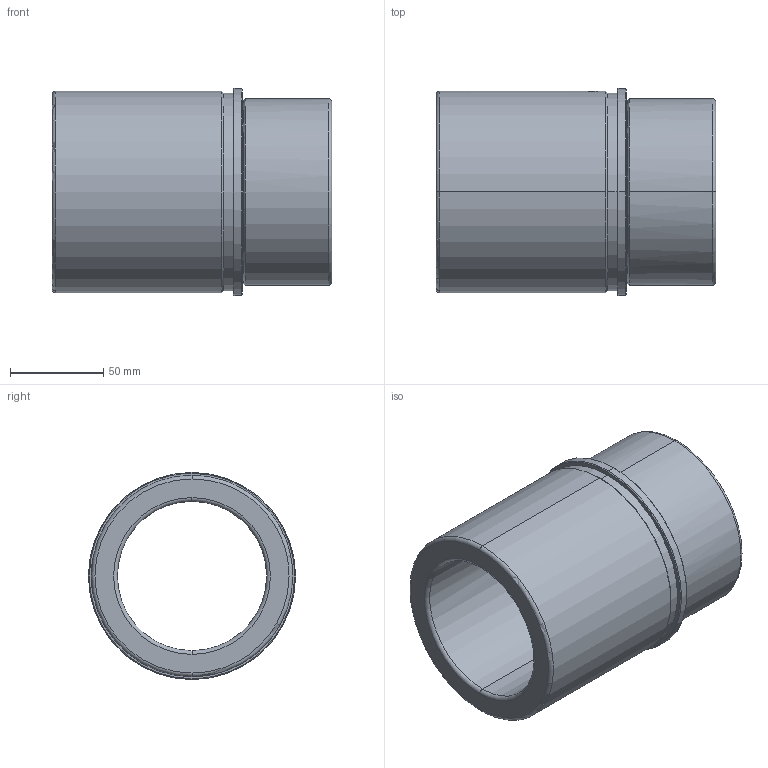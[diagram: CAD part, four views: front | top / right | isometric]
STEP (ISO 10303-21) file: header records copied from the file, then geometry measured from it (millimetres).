
FILE_DESCRIPTION(('CATIA V5 STEP Exchange'),'2;1');
FILE_NAME('C:\Users\Utente\Desktop\IO LAVORO\3D X SITO CF\X SITO\CF 655\CF 655 80 x 150.stp','2020-12-26T14:15:35+00:00',('none'),('none'),'CATIA Version 5 Release 20 GA (IN-10)','CATIA V5 STEP AP203','none');
FILE_SCHEMA(('CONFIG_CONTROL_DESIGN'));
Length unit declared in the file: millimetre
Products named in the file (1): CF 655 80 x 150
Bounding box: 150 x 111 x 111 mm (x, y, z)
Volume: 555412.2 mm3; surface area: 97111.2 mm2
Topology: 1 solids, 1 shells, 37 faces, 125 edges, 93 vertices
Faces by surface type: cylinder 14, cone 10, torus 8, plane 5
Entity records: 1645 total; most frequent: CARTESIAN_POINT 522, ORIENTED_EDGE 250, DIRECTION 178, EDGE_CURVE 125, AXIS2_PLACEMENT_3D 118, VERTEX_POINT 93, CIRCLE 80, EDGE_LOOP 44
